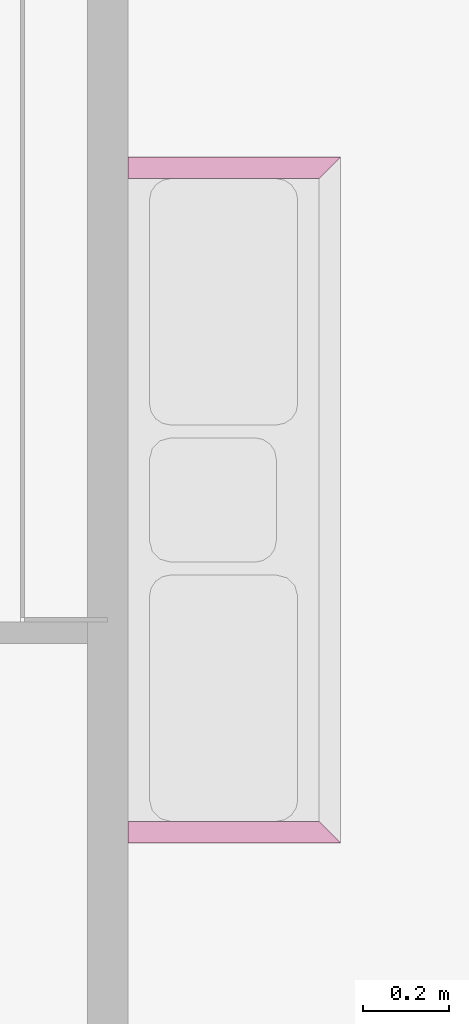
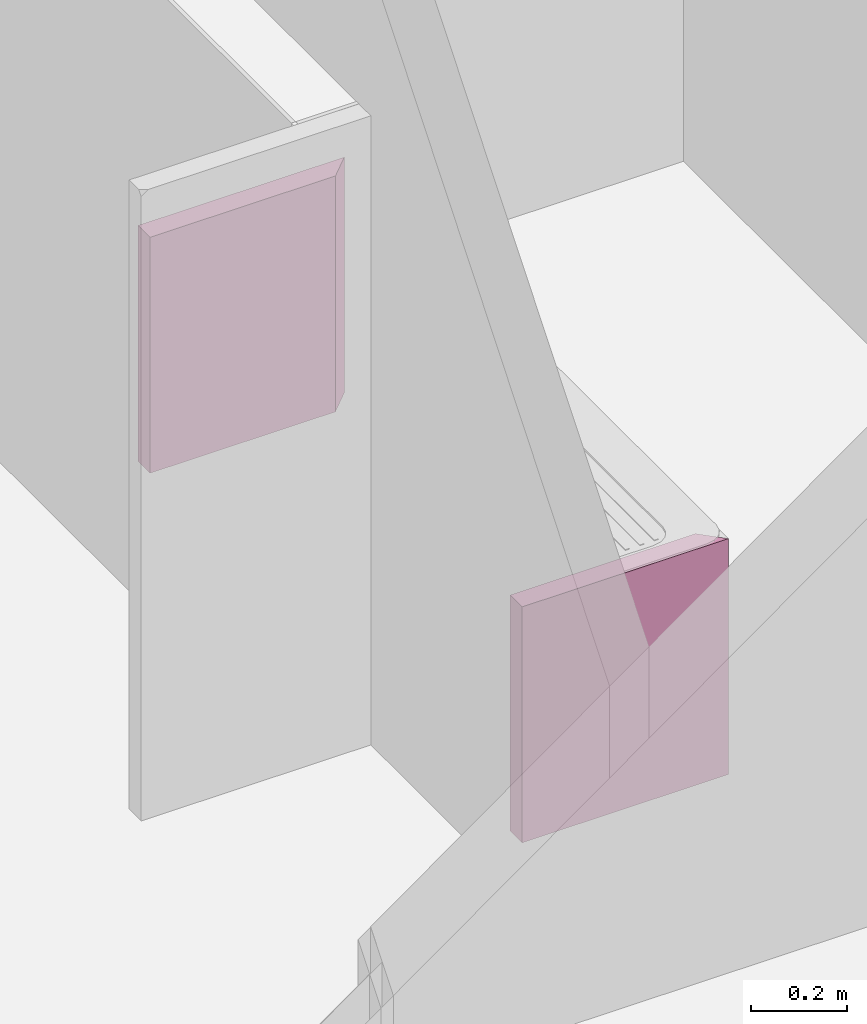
# One storey, part 11 of 17: 2 furnishings.
"""IFC2X3 building model written with IfcOpenShell, lengths in millimetres."""

from ifc_helpers import new_model, entity, si_unit, converted_unit, direction, frame, origin_with_axes, place, context, project, spatial, polyline, outline, extrude, material, type_object, element, save


model = new_model("IFC2X3")

# Units and contexts
model_context = context("Model", 3, precision=1e-05, world=origin_with_axes(), true_north=direction((0.0, 1.0)))
ifc_project = project(units=[si_unit("LENGTHUNIT", "METRE", prefix="MILLI"), si_unit("AREAUNIT", "SQUARE_METRE"), si_unit("VOLUMEUNIT", "CUBIC_METRE"), converted_unit("PLANEANGLEUNIT", "DEGREE", entity("IfcPlaneAngleMeasure", 0.017453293), si_unit("PLANEANGLEUNIT", "RADIAN"), dimensions=[0, 0, 0, 0, 0, 0, 0]), si_unit("SOLIDANGLEUNIT", "STERADIAN"), si_unit("MASSUNIT", "GRAM"), si_unit("TIMEUNIT", "SECOND"), si_unit("THERMODYNAMICTEMPERATUREUNIT", "DEGREE_CELSIUS"), si_unit("LUMINOUSINTENSITYUNIT", "LUMEN")], contexts=[model_context])

# Site, building, storey
site_placement = place(None, origin_with_axes())
site = spatial("IfcSite", under=ifc_project, at=site_placement, Name="\x83T\x83C\x83g", CompositionType="ELEMENT")
building_placement = place(site_placement, origin_with_axes())
building = spatial("IfcBuilding", under=site, at=building_placement, Name="Daitec-Sample 201208", CompositionType="ELEMENT")
storey_placement = place(building_placement, origin_with_axes())
storey = spatial("IfcBuildingStorey", under=building, at=storey_placement, Name="1F", CompositionType="ELEMENT", Elevation=0.0)

# Furnishings
ifc_material_1 = material()
furniture_type_1 = type_object("IfcFurnitureType", AssemblyPlace="NOTDEFINED")
furnishing_1_placement = place(storey_placement, frame((23667.276, 21024.447, 0.0), z_axis=(0.0, 0.0, 1.0), x_axis=(-1.0, 0.0, 0.0)))
element("IfcFurnishingElement", 1, at=furnishing_1_placement, inside=storey, type_object=furniture_type_1, material=ifc_material_1, Name="W5", context=model_context, shape_type="SweptSolid", body=[
    extrude(outline(polyline([(50.0, -50.0), (496.05787, -50.0), (496.05787, 0.0), (0.0, 0.0), (50.0, -50.0)])), origin_with_axes(), (0.0, 0.0, 1.0), 600.0),
])
ifc_material_2 = material(Name="\x83R\x83\x93\x83N\x83\x8a\x81[\x83g-\x8cy\x97Ê")
furniture_type_2 = type_object("IfcFurnitureType", Name="\x83R\x83\x93\x83N\x83\x8a\x81[\x83g-\x8cy\x97Ê 50", AssemblyPlace="NOTDEFINED")
furnishing_2_placement = place(storey_placement, frame((23667.276, 22624.447, 0.0), z_axis=(0.0, 0.0, 1.0), x_axis=(-1.0, 0.0, 0.0)))
element("IfcFurnishingElement", 2, at=furnishing_2_placement, inside=storey, type_object=furniture_type_2, material=ifc_material_2, Name="W6", context=model_context, shape_type="SweptSolid", body=[
    extrude(outline(polyline([(0.0, 0.0), (496.05787, 0.0), (496.05787, 50.0), (50.0, 50.0), (0.0, 0.0)])), origin_with_axes(), (0.0, 0.0, 1.0), 600.0),
])

save(model, "model.ifc")
